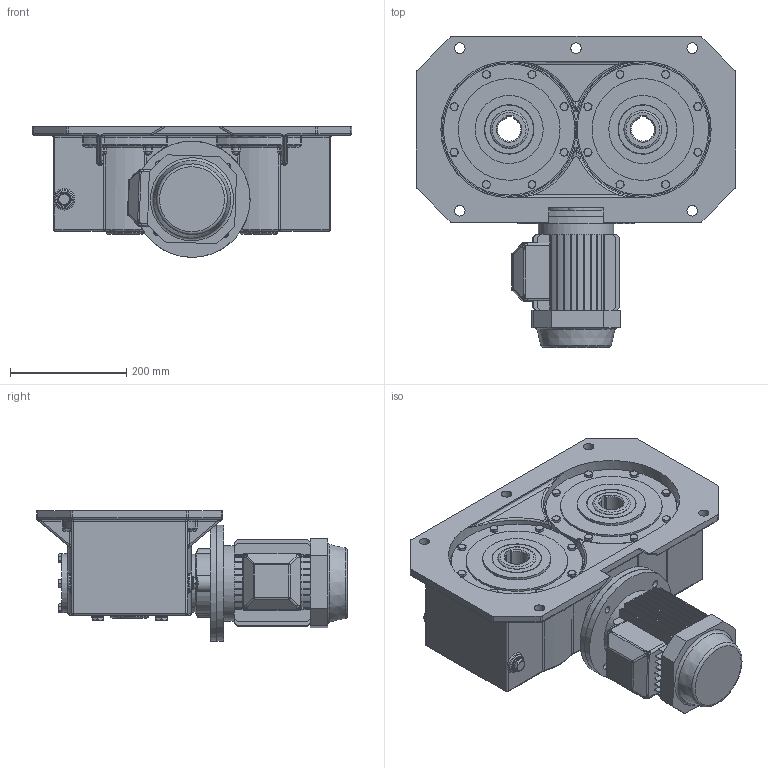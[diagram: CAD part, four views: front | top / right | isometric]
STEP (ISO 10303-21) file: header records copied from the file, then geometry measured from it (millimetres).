
FILE_DESCRIPTION((''),'2;1');
FILE_NAME('Y:\Archivi Inventor\Prog_07\int_230\Figurini\MRV2U_230 x sito\MRV2U_230_80_B5.stp','2013-02-14T16:32:41',('tech3'),(''),'Autodesk Inventor 2013','Autodesk Inventor 2013','');
FILE_SCHEMA(('AUTOMOTIVE_DESIGN { 1 0 10303 214 1 1 1 1 }'));
Length unit declared in the file: millimetre
Products named in the file (12): Fig_MRV2U 230; Figurino_Carcassa 230_2U; 0723002; UNI 5739 M8 x 25; 0723009; Figurino_Corona 230_2U; UNI ISO 6194-1 (4) Tipo4 65 x  85 x  10; Tappo3_8 GAS; Guarnizione 3_8 GAS; DIN EN ISO 4762 M8 x 20; 0105006; motori B5 80
Assembly tree (44 placements, depth 2):
  Fig_MRV2U 230
    Figurino_Carcassa 230_2U
    0723002  x2
    UNI 5739 M8 x 25  x20
    0723009
    Figurino_Corona 230_2U  x2
    UNI ISO 6194-1 (4) Tipo4 65 x  85 x  10  x4
    Tappo3_8 GAS  x4
    Guarnizione 3_8 GAS  x4
    DIN EN ISO 4762 M8 x 20  x4
    0105006
    motori B5 80
Bounding box: 550 x 535 x 225 mm (x, y, z)
Volume: 21171013.6 mm3; surface area: 1559110.9 mm2
Topology: 44 solids, 44 shells, 1813 faces, 4290 edges, 2604 vertices
Faces by surface type: plane 756, cylinder 482, cone 233, bspline 138, torus 120, sphere 84
Full cylindrical faces by diameter (mm): 6.647 x24, 8 x24, 8.5 x8, 9 x16, 11.63 x20, 12 x8, 13 x4, 13.046 x4, 14.95 x4, 16.3 x4, 18 x5, 19 x1, 22 x8, 25 x4, 33 x3, 60 x1, 65 x4, 71 x4, 72 x4, 75 x1, 80 x4, 85 x8, 100 x3, 101 x1, 114.4 x1, 117 x2, 124 x1, 130 x3, 140 x1, 175 x2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
Entity records: 43967 total; most frequent: CARTESIAN_POINT 14284, DIRECTION 6059, ORIENTED_EDGE 5734, EDGE_CURVE 2867, AXIS2_PLACEMENT_3D 2351, VERTEX_POINT 1849, EDGE_LOOP 1549, VECTOR 1357
